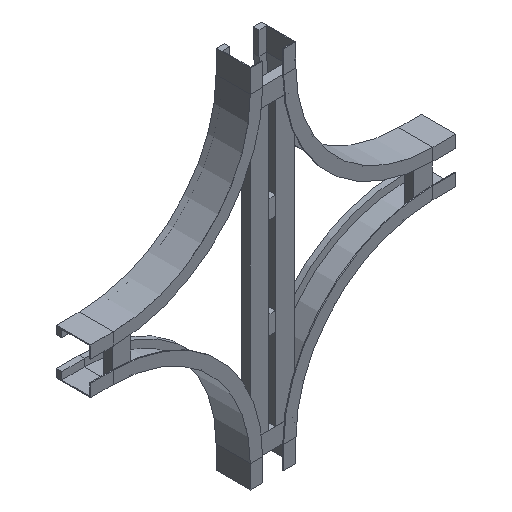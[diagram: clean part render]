
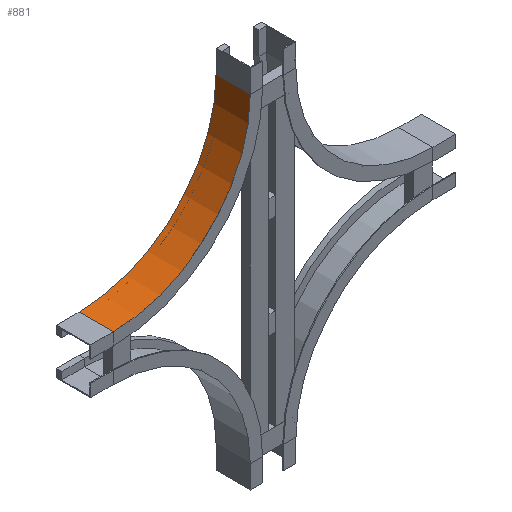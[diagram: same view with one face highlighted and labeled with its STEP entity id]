
A CAD part, isometric view. The second image highlights one B-rep face of the part: STEP entity #881.
In plain terms, the highlighted cylindrical face has radius 300 mm (diameter 600 mm), a partial arc.
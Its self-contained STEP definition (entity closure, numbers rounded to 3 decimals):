
#151 = DIRECTION ( 'NONE',  ( 0., -1., 0. ) ) ;
#176 = DIRECTION ( 'NONE',  ( 0., 0., -1. ) ) ;
#189 = EDGE_CURVE ( 'NONE', #238, #625, #990, .T. ) ;
#199 = CARTESIAN_POINT ( 'NONE',  ( 300., 75., -50. ) ) ;
#238 = VERTEX_POINT ( 'NONE', #859 ) ;
#239 = AXIS2_PLACEMENT_3D ( 'NONE', #385, #151, #176 ) ;
#260 = VECTOR ( 'NONE', #1244, 1000. ) ;
#271 = EDGE_CURVE ( 'NONE', #710, #625, #552, .T. ) ;
#274 = FACE_OUTER_BOUND ( 'NONE', #405, .T. ) ;
#317 = DIRECTION ( 'NONE',  ( 0., -1., 0. ) ) ;
#323 = VECTOR ( 'NONE', #340, 1000. ) ;
#340 = DIRECTION ( 'NONE',  ( 0., 1., 0. ) ) ;
#385 = CARTESIAN_POINT ( 'NONE',  ( 300., 0., -50. ) ) ;
#395 = DIRECTION ( 'NONE',  ( -1., 0., 0. ) ) ;
#405 = EDGE_LOOP ( 'NONE', ( #1163, #1016, #853, #985 ) ) ;
#485 = LINE ( 'NONE', #491, #260 ) ;
#491 = CARTESIAN_POINT ( 'NONE',  ( 0., 0., -50. ) ) ;
#508 = CIRCLE ( 'NONE', #1014, 300. ) ;
#552 = CIRCLE ( 'NONE', #660, 300. ) ;
#603 = CARTESIAN_POINT ( 'NONE',  ( 300., 0., -50. ) ) ;
#625 = VERTEX_POINT ( 'NONE', #980 ) ;
#637 = CARTESIAN_POINT ( 'NONE',  ( 0., 75., -50. ) ) ;
#660 = AXIS2_PLACEMENT_3D ( 'NONE', #199, #317, #1072 ) ;
#710 = VERTEX_POINT ( 'NONE', #637 ) ;
#784 = EDGE_CURVE ( 'NONE', #819, #710, #485, .T. ) ;
#819 = VERTEX_POINT ( 'NONE', #1042 ) ;
#853 = ORIENTED_EDGE ( 'NONE', *, *, #1039, .T. ) ;
#859 = CARTESIAN_POINT ( 'NONE',  ( 300., 0., -350. ) ) ;
#881 = ADVANCED_FACE ( 'NONE', ( #274 ), #1026, .F. ) ;
#980 = CARTESIAN_POINT ( 'NONE',  ( 300., 75., -350. ) ) ;
#985 = ORIENTED_EDGE ( 'NONE', *, *, #189, .T. ) ;
#990 = LINE ( 'NONE', #1390, #323 ) ;
#1014 = AXIS2_PLACEMENT_3D ( 'NONE', #603, #1141, #395 ) ;
#1016 = ORIENTED_EDGE ( 'NONE', *, *, #784, .F. ) ;
#1026 = CYLINDRICAL_SURFACE ( 'NONE', #239, 300. ) ;
#1039 = EDGE_CURVE ( 'NONE', #819, #238, #508, .T. ) ;
#1042 = CARTESIAN_POINT ( 'NONE',  ( 0., 0., -50. ) ) ;
#1072 = DIRECTION ( 'NONE',  ( -1., 0., 0. ) ) ;
#1141 = DIRECTION ( 'NONE',  ( 0., -1., 0. ) ) ;
#1163 = ORIENTED_EDGE ( 'NONE', *, *, #271, .F. ) ;
#1244 = DIRECTION ( 'NONE',  ( 0., 1., 0. ) ) ;
#1390 = CARTESIAN_POINT ( 'NONE',  ( 300., 0., -350. ) ) ;
